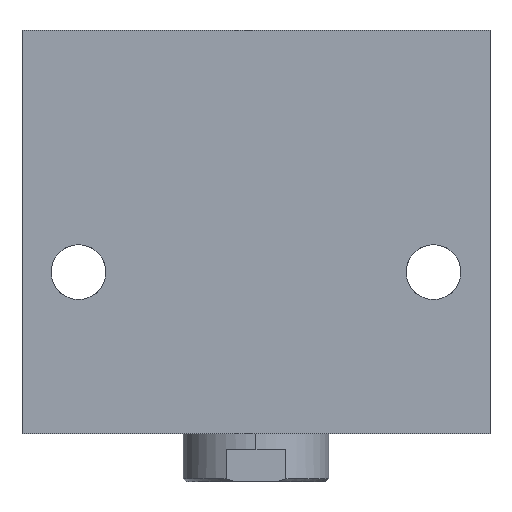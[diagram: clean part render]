
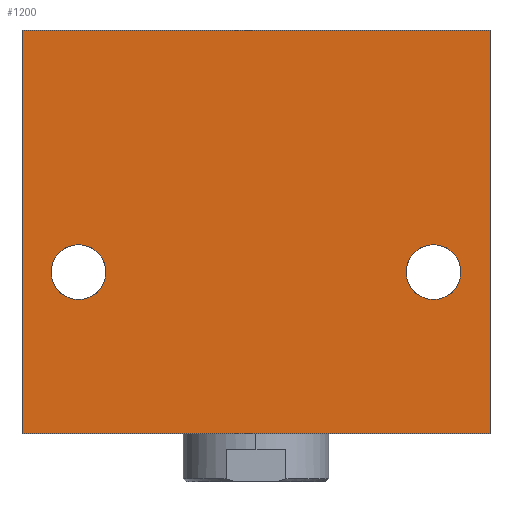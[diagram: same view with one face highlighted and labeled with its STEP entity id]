
A CAD part, front view. The second image highlights one B-rep face of the part: STEP entity #1200.
In plain terms, the highlighted planar face has unit normal (0, -1, 0).
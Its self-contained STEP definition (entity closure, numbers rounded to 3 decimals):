
#794 = CARTESIAN_POINT ( 'NONE',  ( -72.5, 0., -75. ) ) ;
#905 = ORIENTED_EDGE ( 'NONE', *, *, #16432, .T. ) ;
#1057 = VECTOR ( 'NONE', #16924, 1000. ) ;
#1200 = ADVANCED_FACE ( 'NONE', ( #15396, #5155, #1500 ), #10893, .F. ) ;
#1500 = FACE_OUTER_BOUND ( 'NONE', #14398, .T. ) ;
#1804 = CARTESIAN_POINT ( 'NONE',  ( 55., 0., -25. ) ) ;
#1812 = EDGE_CURVE ( 'NONE', #1919, #11833, #10959, .T. ) ;
#1919 = VERTEX_POINT ( 'NONE', #4842 ) ;
#2186 = ORIENTED_EDGE ( 'NONE', *, *, #1812, .T. ) ;
#2369 = CARTESIAN_POINT ( 'NONE',  ( -55., 0., -25. ) ) ;
#2793 = CARTESIAN_POINT ( 'NONE',  ( 55., 0., -25. ) ) ;
#2802 = EDGE_CURVE ( 'NONE', #11970, #8091, #7635, .T. ) ;
#2898 = VERTEX_POINT ( 'NONE', #14272 ) ;
#3112 = AXIS2_PLACEMENT_3D ( 'NONE', #1804, #10962, #3200 ) ;
#3159 = CARTESIAN_POINT ( 'NONE',  ( -72.5, 0., 50. ) ) ;
#3200 = DIRECTION ( 'NONE',  ( 0., 0., 1. ) ) ;
#3736 = ORIENTED_EDGE ( 'NONE', *, *, #13562, .F. ) ;
#3761 = LINE ( 'NONE', #12166, #13635 ) ;
#3778 = DIRECTION ( 'NONE',  ( 0., 0., 1. ) ) ;
#4019 = VERTEX_POINT ( 'NONE', #3159 ) ;
#4080 = ORIENTED_EDGE ( 'NONE', *, *, #9327, .T. ) ;
#4186 = VERTEX_POINT ( 'NONE', #16591 ) ;
#4208 = DIRECTION ( 'NONE',  ( 0., 0., 1. ) ) ;
#4271 = CARTESIAN_POINT ( 'NONE',  ( 55., 0., -16.5 ) ) ;
#4329 = EDGE_CURVE ( 'NONE', #6766, #4019, #7816, .T. ) ;
#4425 = CIRCLE ( 'NONE', #8607, 8.5 ) ;
#4641 = DIRECTION ( 'NONE',  ( 0., 1., 0. ) ) ;
#4842 = CARTESIAN_POINT ( 'NONE',  ( 55., 0., -33.5 ) ) ;
#4976 = CARTESIAN_POINT ( 'NONE',  ( 72.5, 0., -75. ) ) ;
#5155 = FACE_BOUND ( 'NONE', #5488, .T. ) ;
#5413 = LINE ( 'NONE', #794, #11803 ) ;
#5488 = EDGE_LOOP ( 'NONE', ( #4080, #2186 ) ) ;
#6586 = CARTESIAN_POINT ( 'NONE',  ( -72.5, 0., -75. ) ) ;
#6766 = VERTEX_POINT ( 'NONE', #12933 ) ;
#7234 = AXIS2_PLACEMENT_3D ( 'NONE', #11064, #10851, #10835 ) ;
#7596 = DIRECTION ( 'NONE',  ( -1., 0., 0. ) ) ;
#7635 = LINE ( 'NONE', #4976, #8039 ) ;
#7783 = AXIS2_PLACEMENT_3D ( 'NONE', #2793, #11897, #4208 ) ;
#7816 = LINE ( 'NONE', #6586, #1057 ) ;
#8039 = VECTOR ( 'NONE', #16545, 1000. ) ;
#8091 = VERTEX_POINT ( 'NONE', #8220 ) ;
#8124 = ORIENTED_EDGE ( 'NONE', *, *, #4329, .F. ) ;
#8220 = CARTESIAN_POINT ( 'NONE',  ( 72.5, 0., -75. ) ) ;
#8607 = AXIS2_PLACEMENT_3D ( 'NONE', #2369, #11500, #3778 ) ;
#9327 = EDGE_CURVE ( 'NONE', #11833, #1919, #14705, .T. ) ;
#10659 = EDGE_CURVE ( 'NONE', #4019, #11970, #3761, .T. ) ;
#10835 = DIRECTION ( 'NONE',  ( 0., 0., 1. ) ) ;
#10851 = DIRECTION ( 'NONE',  ( 0., 1., 0. ) ) ;
#10893 = PLANE ( 'NONE',  #7234 ) ;
#10959 = CIRCLE ( 'NONE', #7783, 8.5 ) ;
#10962 = DIRECTION ( 'NONE',  ( 0., 1., 0. ) ) ;
#11064 = CARTESIAN_POINT ( 'NONE',  ( 0., 0., 0. ) ) ;
#11500 = DIRECTION ( 'NONE',  ( 0., 1., 0. ) ) ;
#11803 = VECTOR ( 'NONE', #7596, 1000. ) ;
#11833 = VERTEX_POINT ( 'NONE', #4271 ) ;
#11897 = DIRECTION ( 'NONE',  ( 0., 1., 0. ) ) ;
#11970 = VERTEX_POINT ( 'NONE', #13523 ) ;
#12166 = CARTESIAN_POINT ( 'NONE',  ( -72.5, 0., 50. ) ) ;
#12314 = CARTESIAN_POINT ( 'NONE',  ( -55., 0., -25. ) ) ;
#12359 = ORIENTED_EDGE ( 'NONE', *, *, #12708, .T. ) ;
#12397 = CIRCLE ( 'NONE', #13344, 8.5 ) ;
#12708 = EDGE_CURVE ( 'NONE', #4186, #2898, #12397, .T. ) ;
#12933 = CARTESIAN_POINT ( 'NONE',  ( -72.5, 0., -75. ) ) ;
#13344 = AXIS2_PLACEMENT_3D ( 'NONE', #12314, #4641, #13597 ) ;
#13455 = DIRECTION ( 'NONE',  ( 1., 0., 0. ) ) ;
#13523 = CARTESIAN_POINT ( 'NONE',  ( 72.5, 0., 50. ) ) ;
#13562 = EDGE_CURVE ( 'NONE', #8091, #6766, #5413, .T. ) ;
#13597 = DIRECTION ( 'NONE',  ( 0., 0., 1. ) ) ;
#13635 = VECTOR ( 'NONE', #13455, 1000. ) ;
#14251 = ORIENTED_EDGE ( 'NONE', *, *, #2802, .F. ) ;
#14272 = CARTESIAN_POINT ( 'NONE',  ( -55., 0., -33.5 ) ) ;
#14398 = EDGE_LOOP ( 'NONE', ( #8124, #3736, #14251, #15141 ) ) ;
#14705 = CIRCLE ( 'NONE', #3112, 8.5 ) ;
#15082 = EDGE_LOOP ( 'NONE', ( #12359, #905 ) ) ;
#15141 = ORIENTED_EDGE ( 'NONE', *, *, #10659, .F. ) ;
#15396 = FACE_BOUND ( 'NONE', #15082, .T. ) ;
#16432 = EDGE_CURVE ( 'NONE', #2898, #4186, #4425, .T. ) ;
#16545 = DIRECTION ( 'NONE',  ( 0., 0., -1. ) ) ;
#16591 = CARTESIAN_POINT ( 'NONE',  ( -55., 0., -16.5 ) ) ;
#16924 = DIRECTION ( 'NONE',  ( 0., 0., 1. ) ) ;
